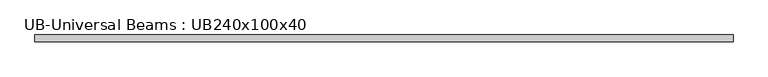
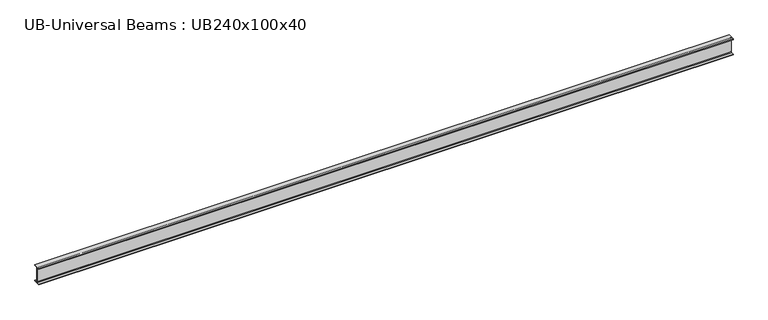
"""IFC4 building model written with IfcOpenShell, lengths in millimetres: beam geometry, UB-Universal Beams : UB240x100x40."""

import ifcopenshell
import ifcopenshell.guid

model = None  # the IFC model being written
_history = None  # IfcOwnerHistory: only IFC2X3 demands one
_inside = {}  # id of a spatial element -> (the spatial element, [elements in it])
_under = {}  # id of a project, library or spatial element -> (it, [spatial elements below it])
_declared = {}  # id of a project -> (the project, [libraries it declares])
_typed = {}  # id of a type object -> (the type object, [elements of that type])
_made_of = {}  # id of a material, layer set ... -> (it, [elements and type objects made of it])


def new_model(schema):
    """Start an empty IFC model of exactly this schema.

    Asked for "IFC4X3", IfcOpenShell would pick the latest addendum, in which some entities
    have other attributes; the version numbers below select the first issue.
    IFC2X3 requires an IfcOwnerHistory on every rooted entity: one is made here for all.
    """
    global model, _history
    if schema == "IFC4X3":
        model = ifcopenshell.file(schema_version=(4, 3, 0, 0))
    else:
        model = ifcopenshell.file(schema=schema)
    _inside.clear()
    _under.clear()
    _declared.clear()
    _typed.clear()
    _made_of.clear()
    _history = None
    if model.schema == "IFC2X3":
        org = make("IfcOrganization", Name="unknown")
        user = make(
            "IfcPersonAndOrganization",
            ThePerson=make("IfcPerson", FamilyName="unknown"),
            TheOrganization=org,
        )
        app = make(
            "IfcApplication",
            ApplicationDeveloper=org,
            Version="unknown",
            ApplicationFullName="unknown",
            ApplicationIdentifier="unknown",
        )
        _history = make(
            "IfcOwnerHistory",
            OwningUser=user,
            OwningApplication=app,
            ChangeAction="ADDED",
            CreationDate=0,
        )
    return model


def make(cls, **values):
    """One entity of the class cls with the attributes given. An attribute that is None is left unset."""
    return model.create_entity(
        cls, **{name: value for name, value in values.items() if value is not None}
    )


def rooted(cls, **values):
    """An entity with a GlobalId (a new one), such as an element, a storey or a relation."""
    return make(cls, GlobalId=ifcopenshell.guid.new(), OwnerHistory=_history, **values)


def si_unit(unit_type, name, prefix=None):
    """IfcSIUnit, for example si_unit("LENGTHUNIT", "METRE", prefix="MILLI")."""
    return make("IfcSIUnit", UnitType=unit_type, Prefix=prefix, Name=name)


def assignment(units):
    """IfcUnitAssignment: the units of a project."""
    return None if units is None else make("IfcUnitAssignment", Units=units)


def point(xyz):
    """IfcCartesianPoint."""
    return None if xyz is None else make("IfcCartesianPoint", Coordinates=xyz)


def direction(xyz):
    """IfcDirection."""
    return None if xyz is None else make("IfcDirection", DirectionRatios=xyz)


def frame(location, z_axis=None, x_axis=None):
    """IfcAxis2Placement3D, a coordinate frame: its origin and axes. An axis left out is left unset."""
    return make(
        "IfcAxis2Placement3D",
        Location=point(location),
        Axis=direction(z_axis),
        RefDirection=direction(x_axis),
    )


def frame_2d(location, x_axis=None):
    """IfcAxis2Placement2D, a coordinate frame in the plane: its origin and x axis."""
    return make(
        "IfcAxis2Placement2D", Location=point(location), RefDirection=direction(x_axis)
    )


def origin():
    """The frame at (0, 0, 0) with its axes left unset."""
    return frame((0.0, 0.0, 0.0))


def place(relative_to, where):
    """IfcLocalPlacement: puts the frame where relative to a parent placement (None: the world)."""
    return make(
        "IfcLocalPlacement", PlacementRelTo=relative_to, RelativePlacement=where
    )


def context(
    kind, dimensions, precision=None, world=None, true_north=None, identifier=None
):
    """IfcGeometricRepresentationContext, for example the 3D "Model" context."""
    return make(
        "IfcGeometricRepresentationContext",
        ContextIdentifier=identifier,
        ContextType=kind,
        CoordinateSpaceDimension=dimensions,
        Precision=precision,
        WorldCoordinateSystem=world,
        TrueNorth=true_north,
    )


def project(units=None, contexts=None):
    """IfcProject with its units and contexts."""
    return rooted(
        "IfcProject",
        Name="project",
        RepresentationContexts=contexts,
        UnitsInContext=assignment(units),
    )


def spatial(cls, under=None, at=None, **own):
    """A site, building, storey or space (cls), placed at a placement, below another one or the project."""
    s = rooted(cls, ObjectPlacement=at, **own)
    if under is not None:
        _under.setdefault(under.id(), (under, []))[1].append(s)
    return s


def polyline(points):
    """IfcPolyline through the points."""
    return make("IfcPolyline", Points=[point(p) for p in points])


def circle_curve(where, radius):
    """IfcCircle in the frame where."""
    return make("IfcCircle", Position=where, Radius=radius)


def trimmed(basis, trim1, trim2, sense, master):
    """IfcTrimmedCurve: the piece of a basis curve between two trims."""
    return make(
        "IfcTrimmedCurve",
        BasisCurve=basis,
        Trim1=trim1,
        Trim2=trim2,
        SenseAgreement=sense,
        MasterRepresentation=master,
    )


def segment(curve, same_sense, transition):
    """IfcCompositeCurveSegment."""
    return make(
        "IfcCompositeCurveSegment",
        Transition=transition,
        SameSense=same_sense,
        ParentCurve=curve,
    )


def composite_curve(segments, self_intersect=None):
    """IfcCompositeCurve: segments joined end to end."""
    return make("IfcCompositeCurve", Segments=segments, SelfIntersect=self_intersect)


def outline(outer, holes=None, kind="AREA"):
    """IfcArbitraryClosedProfileDef: a profile drawn as a closed curve; with holes, ...WithVoids."""
    if holes is None:
        return make("IfcArbitraryClosedProfileDef", ProfileType=kind, OuterCurve=outer)
    return make(
        "IfcArbitraryProfileDefWithVoids",
        ProfileType=kind,
        OuterCurve=outer,
        InnerCurves=holes,
    )


def extrude(swept, where, along, depth):
    """IfcExtrudedAreaSolid: the profile swept, set in the frame where, extruded along a direction by depth."""
    return make(
        "IfcExtrudedAreaSolid",
        SweptArea=swept,
        Position=where,
        ExtrudedDirection=direction(along),
        Depth=depth,
    )


def shape(context_of_items, identifier, shape_type, items):
    """IfcShapeRepresentation: the items that make up one representation, for example the "Body"."""
    return make(
        "IfcShapeRepresentation",
        ContextOfItems=context_of_items,
        RepresentationIdentifier=identifier,
        RepresentationType=shape_type,
        Items=items,
    )


def source(mapping_origin, context_of_items, identifier, shape_type, items):
    """IfcRepresentationMap: a shape defined once, which mapped items show again and again."""
    return make(
        "IfcRepresentationMap",
        MappingOrigin=mapping_origin,
        MappedRepresentation=shape(context_of_items, identifier, shape_type, items),
    )


def transform(
    local_origin,
    x_axis=None,
    y_axis=None,
    z_axis=None,
    scale=None,
    scale2=None,
    scale3=None,
    uniform=True,
):
    """IfcCartesianTransformationOperator3D, or its non-uniform kind. x_axis, y_axis, z_axis: its Axis1, 2, 3."""
    if uniform:
        return make(
            "IfcCartesianTransformationOperator3D",
            Axis1=direction(x_axis),
            Axis2=direction(y_axis),
            LocalOrigin=point(local_origin),
            Scale=scale,
            Axis3=direction(z_axis),
        )
    return make(
        "IfcCartesianTransformationOperator3DnonUniform",
        Axis1=direction(x_axis),
        Axis2=direction(y_axis),
        LocalOrigin=point(local_origin),
        Scale=scale,
        Axis3=direction(z_axis),
        Scale2=scale2,
        Scale3=scale3,
    )


def mapped(mapping_source, mapping_target):
    """IfcMappedItem: shows the shape of a source again, moved by a transform."""
    return make(
        "IfcMappedItem", MappingSource=mapping_source, MappingTarget=mapping_target
    )


def made_of(thing, what):
    """Note that an element or type object is made of a material, layer set ...; save() writes the relation."""
    if what is not None:
        _made_of.setdefault(what.id(), (what, []))[1].append(thing)
    return thing


def element(
    cls,
    number,
    at=None,
    inside=None,
    cuts=None,
    type_object=None,
    material=None,
    context=None,
    identifier="Body",
    shape_type=None,
    held_by="IfcProductDefinitionShape",
    body=None,
    shapes=None,
    **own,
):
    """One element of the class cls, such as IfcWall. Its Tag is "e" and its number.

    at: its placement. inside: the storey or other place that contains it. cuts: it is an
    opening in that element (IfcRelVoidsElement). A single representation is given by context,
    identifier, shape_type and body (its items); several are given by shapes. held_by: the class
    of the entity that holds the representations. save() writes the other relations.
    """
    e = rooted(cls, Tag="e%d" % number, ObjectPlacement=at, **own)
    if body is not None:
        shapes = [shape(context, identifier, shape_type, body)]
    if shapes is not None:
        e.Representation = make(held_by, Representations=shapes)
    if inside is not None:
        _inside.setdefault(inside.id(), (inside, []))[1].append(e)
    if cuts is not None:
        rooted(
            "IfcRelVoidsElement", RelatingBuildingElement=cuts, RelatedOpeningElement=e
        )
    if type_object is not None:
        _typed.setdefault(type_object.id(), (type_object, []))[1].append(e)
    return made_of(e, material)


def aggregate(whole, parts):
    """IfcRelAggregates: a whole, such as a stair, and the parts it consists of."""
    return rooted("IfcRelAggregates", RelatingObject=whole, RelatedObjects=parts)


def save(model, path):
    """Write the relations noted so far, then the file.

    IfcRelAggregates (storeys below a building ...), IfcRelContainedInSpatialStructure (elements
    in a storey), IfcRelDefinesByType, IfcRelAssociatesMaterial and IfcRelDeclares: one each for
    every whole, place, type object, material and project.
    """
    for whole, parts in _under.values():
        aggregate(whole, parts)
    for where, things in _inside.values():
        rooted(
            "IfcRelContainedInSpatialStructure",
            RelatedElements=things,
            RelatingStructure=where,
        )
    for kind, things in _typed.values():
        rooted("IfcRelDefinesByType", RelatedObjects=things, RelatingType=kind)
    for what, things in _made_of.values():
        rooted("IfcRelAssociatesMaterial", RelatedObjects=things, RelatingMaterial=what)
    for by, libraries in _declared.values():
        rooted("IfcRelDeclares", RelatingContext=by, RelatedDefinitions=libraries)
    model.write(path)


def ub_universal_beams_ub240x100x40_dda5167d(model_context):
    return source(origin(), model_context, "Body", "SweptSolid", [
        extrude(outline(composite_curve([segment(polyline([(-50.0, -109.8), (-11.9, -109.8)]), True, "CONTINUOUS"), segment(trimmed(circle_curve(frame_2d((-11.9, -100.9)), 8.9), [point((-11.9, -109.8))], [point((-3.0, -100.9))], True, "CARTESIAN"), True, "CONTINUOUS"), segment(polyline([(-3.0, -100.9), (-3.0, 100.9)]), True, "CONTINUOUS"), segment(trimmed(circle_curve(frame_2d((-11.9, 100.9)), 8.9), [point((-3.0, 100.9))], [point((-11.9, 109.8))], True, "CARTESIAN"), True, "CONTINUOUS"), segment(polyline([(-11.9, 109.8), (-50.0, 109.8), (-50.0, 120.0), (50.0, 120.0), (50.0, 109.8), (11.9, 109.8)]), True, "CONTINUOUS"), segment(trimmed(circle_curve(frame_2d((11.9, 100.9)), 8.9), [point((11.9, 109.8))], [point((3.0, 100.9))], True, "CARTESIAN"), True, "CONTINUOUS"), segment(polyline([(3.0, 100.9), (3.0, -100.9)]), True, "CONTINUOUS"), segment(trimmed(circle_curve(frame_2d((11.9, -100.9)), 8.9), [point((3.0, -100.9))], [point((11.9, -109.8))], True, "CARTESIAN"), True, "CONTINUOUS"), segment(polyline([(11.9, -109.8), (50.0, -109.8), (50.0, -120.0), (-50.0, -120.0), (-50.0, -109.8)]), True, "CONTINUOUS")], self_intersect=False)), frame((-4952.05, 0.0, 0.0), z_axis=(1.0, 0.0, 0.0), x_axis=(0.0, 1.0, 0.0)), (0.0, 0.0, 1.0), 9899.1),
    ])


if __name__ == "__main__":
    model = new_model("IFC4")
    model_context = context("Model", 3, world=origin())
    ifc_project = project(units=[si_unit("LENGTHUNIT", "METRE", prefix="MILLI")], contexts=[model_context])
    site = spatial("IfcSite", under=ifc_project)
    building = spatial("IfcBuilding", under=site)
    placement = place(None, origin())
    ub_universal_beams_ub240x100x40_shape = ub_universal_beams_ub240x100x40_dda5167d(model_context)
    element("IfcBeam", 1, ObjectType="UB-Universal Beams : UB240x100x40", at=placement, inside=building, context=model_context, shape_type="MappedRepresentation", body=[
        mapped(ub_universal_beams_ub240x100x40_shape, transform((0.0, 0.0, 0.0), x_axis=(1.0, 0.0, 0.0), y_axis=(0.0, 1.0, 0.0), z_axis=(0.0, 0.0, 1.0))),
    ])
    save(model, "model.ifc")
